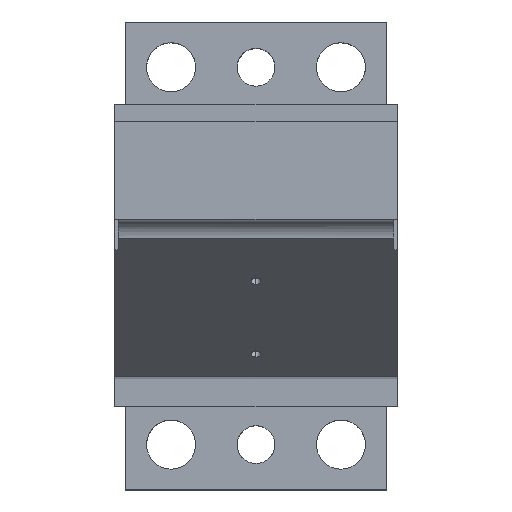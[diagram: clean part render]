
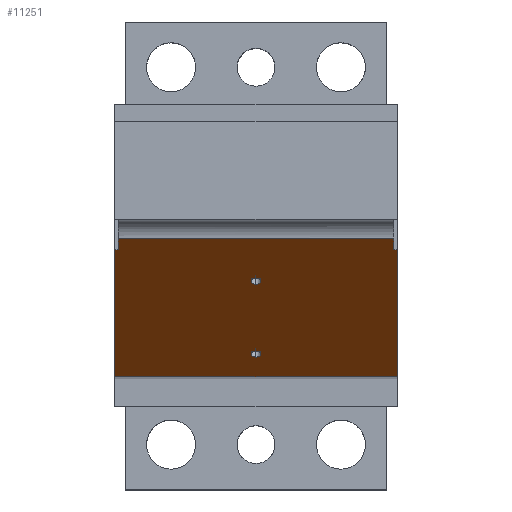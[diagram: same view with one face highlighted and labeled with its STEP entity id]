
A CAD part, top view. The second image highlights one B-rep face of the part: STEP entity #11251.
In plain terms, the highlighted planar face has unit normal (0, -0.766, 0.643).
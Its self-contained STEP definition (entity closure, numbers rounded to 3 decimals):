
#208 = CARTESIAN_POINT ( 'NONE',  ( 37.5, -7.836, -20. ) ) ;
#234 = CARTESIAN_POINT ( 'NONE',  ( 100., -42.5, -61.311 ) ) ;
#384 = DIRECTION ( 'NONE',  ( 1., 0., 0. ) ) ;
#512 = FACE_BOUND ( 'NONE', #14612, .T. ) ;
#573 = DIRECTION ( 'NONE',  ( 1., 0., 0. ) ) ;
#766 = DIRECTION ( 'NONE',  ( 1., 0., 0. ) ) ;
#844 = EDGE_CURVE ( 'NONE', #7946, #10412, #17012, .T. ) ;
#885 = DIRECTION ( 'NONE',  ( 1., 0., 0. ) ) ;
#1096 = VERTEX_POINT ( 'NONE', #16226 ) ;
#1133 = VECTOR ( 'NONE', #10571, 1000. ) ;
#1264 = B_SPLINE_CURVE_WITH_KNOTS ( 'NONE', 3,
 ( #11233, #21422, #21494, #6268 ),
 .UNSPECIFIED., .F., .F.,
 ( 4, 4 ),
 ( 0., 1. ),
 .UNSPECIFIED. ) ;
#1442 = DIRECTION ( 'NONE',  ( -1., 0., 0. ) ) ;
#1479 = EDGE_CURVE ( 'NONE', #19264, #20526, #19068, .T. ) ;
#1512 = AXIS2_PLACEMENT_3D ( 'NONE', #234, #15160, #5163 ) ;
#1543 = CARTESIAN_POINT ( 'NONE',  ( 37.5, -19.057, -33.373 ) ) ;
#1554 = VECTOR ( 'NONE', #1442, 1000. ) ;
#1590 = CIRCLE ( 'NONE', #5199, 1.25 ) ;
#1779 = EDGE_CURVE ( 'NONE', #19244, #3360, #3898, .T. ) ;
#2118 = AXIS2_PLACEMENT_3D ( 'NONE', #16909, #13342, #10181 ) ;
#2131 = B_SPLINE_CURVE_WITH_KNOTS ( 'NONE', 3,
 ( #7429, #15904, #15621, #5629 ),
 .UNSPECIFIED., .F., .F.,
 ( 4, 4 ),
 ( 0., 1. ),
 .UNSPECIFIED. ) ;
#3231 = VERTEX_POINT ( 'NONE', #14835 ) ;
#3255 = AXIS2_PLACEMENT_3D ( 'NONE', #3688, #10815, #885 ) ;
#3360 = VERTEX_POINT ( 'NONE', #20793 ) ;
#3688 = CARTESIAN_POINT ( 'NONE',  ( 0., -16.217, -29.987 ) ) ;
#3898 = CIRCLE ( 'NONE', #2118, 1.25 ) ;
#3987 = EDGE_LOOP ( 'NONE', ( #13368, #15004 ) ) ;
#4075 = CARTESIAN_POINT ( 'NONE',  ( 0., -35.5, -52.969 ) ) ;
#4728 = ORIENTED_EDGE ( 'NONE', *, *, #7726, .F. ) ;
#4746 = CARTESIAN_POINT ( 'NONE',  ( 36.5, -6.418, -18.31 ) ) ;
#5163 = DIRECTION ( 'NONE',  ( -1., 0., 0. ) ) ;
#5199 = AXIS2_PLACEMENT_3D ( 'NONE', #4075, #17733, #766 ) ;
#5277 = ORIENTED_EDGE ( 'NONE', *, *, #14284, .F. ) ;
#5400 = CARTESIAN_POINT ( 'NONE',  ( 0., -34.697, -52.011 ) ) ;
#5629 = CARTESIAN_POINT ( 'NONE',  ( -37.5, -41.5, -60.12 ) ) ;
#5861 = ORIENTED_EDGE ( 'NONE', *, *, #18671, .T. ) ;
#6268 = CARTESIAN_POINT ( 'NONE',  ( -37.5, -7.836, -20. ) ) ;
#6863 = EDGE_CURVE ( 'NONE', #3231, #12316, #1264, .T. ) ;
#7296 = VECTOR ( 'NONE', #16236, 1000. ) ;
#7429 = CARTESIAN_POINT ( 'NONE',  ( 37.5, -41.5, -60.12 ) ) ;
#7726 = EDGE_CURVE ( 'NONE', #1096, #20526, #21567, .T. ) ;
#7946 = VERTEX_POINT ( 'NONE', #8309 ) ;
#8233 = VERTEX_POINT ( 'NONE', #16986 ) ;
#8241 = CARTESIAN_POINT ( 'NONE',  ( -36.5, -5., -16.62 ) ) ;
#8309 = CARTESIAN_POINT ( 'NONE',  ( 37.5, -7.836, -20. ) ) ;
#9521 = AXIS2_PLACEMENT_3D ( 'NONE', #15369, #20514, #384 ) ;
#9896 = CARTESIAN_POINT ( 'NONE',  ( 36.5, -7.836, -20. ) ) ;
#10181 = DIRECTION ( 'NONE',  ( 1., 0., 0. ) ) ;
#10412 = VERTEX_POINT ( 'NONE', #15475 ) ;
#10424 = CARTESIAN_POINT ( 'NONE',  ( -36.5, -6.418, -18.31 ) ) ;
#10571 = DIRECTION ( 'NONE',  ( 0., 0.643, 0.766 ) ) ;
#10815 = DIRECTION ( 'NONE',  ( 0., 0.766, -0.643 ) ) ;
#10953 = CIRCLE ( 'NONE', #9521, 1.25 ) ;
#11233 = CARTESIAN_POINT ( 'NONE',  ( -37.5, -41.5, -60.12 ) ) ;
#11251 = ADVANCED_FACE ( 'NONE', ( #16207, #13346, #512 ), #13477, .F. ) ;
#11852 = VECTOR ( 'NONE', #573, 1000. ) ;
#12047 = CARTESIAN_POINT ( 'NONE',  ( 37., -7.836, -20. ) ) ;
#12311 = CARTESIAN_POINT ( 'NONE',  ( 36.5, -5., -16.62 ) ) ;
#12316 = VERTEX_POINT ( 'NONE', #18835 ) ;
#12588 = VERTEX_POINT ( 'NONE', #12886 ) ;
#12886 = CARTESIAN_POINT ( 'NONE',  ( 0., -15.413, -29.03 ) ) ;
#13236 = CARTESIAN_POINT ( 'NONE',  ( 37.5, -30.279, -46.747 ) ) ;
#13308 = CARTESIAN_POINT ( 'NONE',  ( 37.5, -41.5, -60.12 ) ) ;
#13342 = DIRECTION ( 'NONE',  ( 0., 0.766, -0.643 ) ) ;
#13346 = FACE_BOUND ( 'NONE', #3987, .T. ) ;
#13368 = ORIENTED_EDGE ( 'NONE', *, *, #1779, .T. ) ;
#13477 = PLANE ( 'NONE',  #1512 ) ;
#14284 = EDGE_CURVE ( 'NONE', #21638, #7946, #19991, .T. ) ;
#14377 = VECTOR ( 'NONE', #19819, 1000. ) ;
#14488 = EDGE_CURVE ( 'NONE', #10412, #3231, #2131, .T. ) ;
#14612 = EDGE_LOOP ( 'NONE', ( #5861, #20806 ) ) ;
#14739 = ORIENTED_EDGE ( 'NONE', *, *, #17737, .F. ) ;
#14835 = CARTESIAN_POINT ( 'NONE',  ( -37.5, -41.5, -60.12 ) ) ;
#15004 = ORIENTED_EDGE ( 'NONE', *, *, #17031, .T. ) ;
#15160 = DIRECTION ( 'NONE',  ( 0., 0.766, -0.643 ) ) ;
#15284 = ORIENTED_EDGE ( 'NONE', *, *, #844, .F. ) ;
#15369 = CARTESIAN_POINT ( 'NONE',  ( 0., -16.217, -29.987 ) ) ;
#15475 = CARTESIAN_POINT ( 'NONE',  ( 37.5, -41.5, -60.12 ) ) ;
#15621 = CARTESIAN_POINT ( 'NONE',  ( -12.5, -41.5, -60.12 ) ) ;
#15826 = ORIENTED_EDGE ( 'NONE', *, *, #14488, .F. ) ;
#15904 = CARTESIAN_POINT ( 'NONE',  ( 12.5, -41.5, -60.12 ) ) ;
#16207 = FACE_OUTER_BOUND ( 'NONE', #19269, .T. ) ;
#16226 = CARTESIAN_POINT ( 'NONE',  ( -36.5, -7.836, -20. ) ) ;
#16236 = DIRECTION ( 'NONE',  ( 1., 0., 0. ) ) ;
#16451 = CARTESIAN_POINT ( 'NONE',  ( -37., -7.836, -20. ) ) ;
#16909 = CARTESIAN_POINT ( 'NONE',  ( 0., -35.5, -52.969 ) ) ;
#16979 = ORIENTED_EDGE ( 'NONE', *, *, #6863, .F. ) ;
#16986 = CARTESIAN_POINT ( 'NONE',  ( 0., -17.02, -30.945 ) ) ;
#17012 = B_SPLINE_CURVE_WITH_KNOTS ( 'NONE', 3,
 ( #208, #1543, #13236, #13308 ),
 .UNSPECIFIED., .F., .F.,
 ( 4, 4 ),
 ( 0., 1. ),
 .UNSPECIFIED. ) ;
#17031 = EDGE_CURVE ( 'NONE', #3360, #19244, #1590, .T. ) ;
#17578 = ORIENTED_EDGE ( 'NONE', *, *, #19650, .F. ) ;
#17733 = DIRECTION ( 'NONE',  ( 0., 0.766, -0.643 ) ) ;
#17737 = EDGE_CURVE ( 'NONE', #12316, #1096, #18581, .T. ) ;
#17902 = CARTESIAN_POINT ( 'NONE',  ( 0., -5., -16.62 ) ) ;
#18581 = LINE ( 'NONE', #16451, #7296 ) ;
#18671 = EDGE_CURVE ( 'NONE', #12588, #8233, #10953, .T. ) ;
#18835 = CARTESIAN_POINT ( 'NONE',  ( -37.5, -7.836, -20. ) ) ;
#19068 = LINE ( 'NONE', #17902, #1554 ) ;
#19081 = CIRCLE ( 'NONE', #3255, 1.25 ) ;
#19244 = VERTEX_POINT ( 'NONE', #5400 ) ;
#19264 = VERTEX_POINT ( 'NONE', #12311 ) ;
#19269 = EDGE_LOOP ( 'NONE', ( #15826, #15284, #5277, #17578, #21400, #4728, #14739, #16979 ) ) ;
#19650 = EDGE_CURVE ( 'NONE', #19264, #21638, #20659, .T. ) ;
#19819 = DIRECTION ( 'NONE',  ( 0., -0.643, -0.766 ) ) ;
#19841 = EDGE_CURVE ( 'NONE', #8233, #12588, #19081, .T. ) ;
#19991 = LINE ( 'NONE', #12047, #11852 ) ;
#20514 = DIRECTION ( 'NONE',  ( 0., 0.766, -0.643 ) ) ;
#20526 = VERTEX_POINT ( 'NONE', #8241 ) ;
#20659 = LINE ( 'NONE', #4746, #14377 ) ;
#20793 = CARTESIAN_POINT ( 'NONE',  ( 0., -36.304, -53.926 ) ) ;
#20806 = ORIENTED_EDGE ( 'NONE', *, *, #19841, .T. ) ;
#21400 = ORIENTED_EDGE ( 'NONE', *, *, #1479, .T. ) ;
#21422 = CARTESIAN_POINT ( 'NONE',  ( -37.5, -30.279, -46.747 ) ) ;
#21494 = CARTESIAN_POINT ( 'NONE',  ( -37.5, -19.057, -33.373 ) ) ;
#21567 = LINE ( 'NONE', #10424, #1133 ) ;
#21638 = VERTEX_POINT ( 'NONE', #9896 ) ;
